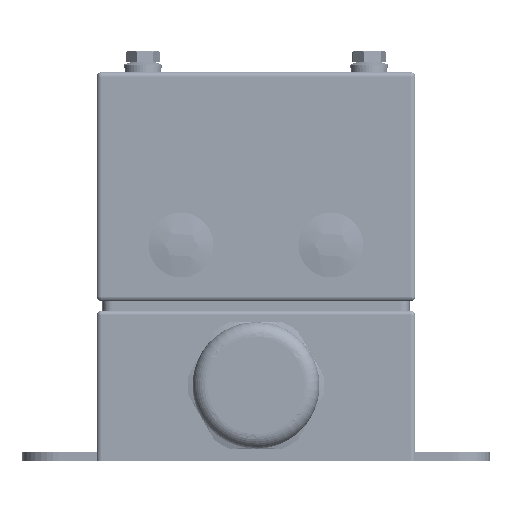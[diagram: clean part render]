
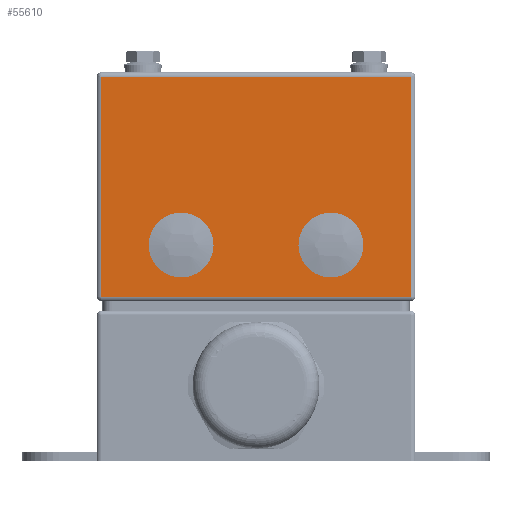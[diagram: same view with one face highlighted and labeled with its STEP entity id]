
A CAD part, front view. The second image highlights one B-rep face of the part: STEP entity #55610.
In plain terms, the highlighted planar face has unit normal (0, -1, 0).
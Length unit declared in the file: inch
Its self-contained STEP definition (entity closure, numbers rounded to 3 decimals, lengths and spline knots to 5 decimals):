
#786 = VECTOR ( 'NONE', #56694, 39.37008 ) ;
#1098 = EDGE_CURVE ( 'NONE', #26829, #47674, #9906, .T. ) ;
#3145 = AXIS2_PLACEMENT_3D ( 'NONE', #39905, #80650, #39479 ) ;
#4721 = ORIENTED_EDGE ( 'NONE', *, *, #1098, .T. ) ;
#4740 = VECTOR ( 'NONE', #40128, 39.37008 ) ;
#5893 = CARTESIAN_POINT ( 'NONE',  ( 2.065, -4.275, 1.53 ) ) ;
#6546 = EDGE_CURVE ( 'NONE', #55925, #56583, #51054, .T. ) ;
#7985 = VECTOR ( 'NONE', #81919, 39.37008 ) ;
#8957 = CIRCLE ( 'NONE', #24145, 0.375 ) ;
#9906 = LINE ( 'NONE', #74977, #7985 ) ;
#9912 = DIRECTION ( 'NONE',  ( 0., 1., 0. ) ) ;
#12426 = LINE ( 'NONE', #63622, #14462 ) ;
#12628 = DIRECTION ( 'NONE',  ( 0., 0., -1. ) ) ;
#13274 = CARTESIAN_POINT ( 'NONE',  ( -1., -4.275, -1.155 ) ) ;
#13534 = ORIENTED_EDGE ( 'NONE', *, *, #60490, .T. ) ;
#14462 = VECTOR ( 'NONE', #83577, 39.37008 ) ;
#18305 = ORIENTED_EDGE ( 'NONE', *, *, #74856, .T. ) ;
#18450 = EDGE_CURVE ( 'NONE', #47674, #21364, #12426, .T. ) ;
#18995 = ORIENTED_EDGE ( 'NONE', *, *, #68162, .F. ) ;
#20796 = EDGE_CURVE ( 'NONE', #56583, #55925, #21542, .T. ) ;
#21364 = VERTEX_POINT ( 'NONE', #84769 ) ;
#21542 = CIRCLE ( 'NONE', #70021, 0.375 ) ;
#21782 = DIRECTION ( 'NONE',  ( 0., 0., -1. ) ) ;
#22617 = DIRECTION ( 'NONE',  ( 0., -1., 0. ) ) ;
#24145 = AXIS2_PLACEMENT_3D ( 'NONE', #65531, #25177, #12628 ) ;
#25177 = DIRECTION ( 'NONE',  ( 0., -1., 0. ) ) ;
#26829 = VERTEX_POINT ( 'NONE', #58717 ) ;
#28365 = ORIENTED_EDGE ( 'NONE', *, *, #20796, .F. ) ;
#28740 = VERTEX_POINT ( 'NONE', #40065 ) ;
#29989 = VERTEX_POINT ( 'NONE', #60461 ) ;
#30010 = ORIENTED_EDGE ( 'NONE', *, *, #18450, .T. ) ;
#35931 = FACE_BOUND ( 'NONE', #51977, .T. ) ;
#39479 = DIRECTION ( 'NONE',  ( 0., 0., -1. ) ) ;
#39905 = CARTESIAN_POINT ( 'NONE',  ( -1., -4.275, -0.78 ) ) ;
#40065 = CARTESIAN_POINT ( 'NONE',  ( 2.065, -4.275, -1.47 ) ) ;
#40128 = DIRECTION ( 'NONE',  ( 0., 0., 1. ) ) ;
#41176 = FACE_OUTER_BOUND ( 'NONE', #78242, .T. ) ;
#42156 = CARTESIAN_POINT ( 'NONE',  ( 1., -4.275, -0.78 ) ) ;
#42704 = ORIENTED_EDGE ( 'NONE', *, *, #73449, .F. ) ;
#43154 = CARTESIAN_POINT ( 'NONE',  ( 1., -4.275, -1.155 ) ) ;
#47674 = VERTEX_POINT ( 'NONE', #50655 ) ;
#48120 = VERTEX_POINT ( 'NONE', #43154 ) ;
#50655 = CARTESIAN_POINT ( 'NONE',  ( -2.065, -4.275, 1.47 ) ) ;
#51054 = CIRCLE ( 'NONE', #3145, 0.375 ) ;
#51977 = EDGE_LOOP ( 'NONE', ( #28365, #60705 ) ) ;
#53093 = AXIS2_PLACEMENT_3D ( 'NONE', #69320, #9912, #54190 ) ;
#53988 = LINE ( 'NONE', #5893, #4740 ) ;
#54190 = DIRECTION ( 'NONE',  ( 0., 0., 1. ) ) ;
#55610 = ADVANCED_FACE ( 'NONE', ( #35931, #74570, #41176 ), #62392, .F. ) ;
#55925 = VERTEX_POINT ( 'NONE', #63682 ) ;
#56583 = VERTEX_POINT ( 'NONE', #13274 ) ;
#56694 = DIRECTION ( 'NONE',  ( 1., 0., 0. ) ) ;
#58717 = CARTESIAN_POINT ( 'NONE',  ( 2.065, -4.275, 1.47 ) ) ;
#60332 = CIRCLE ( 'NONE', #79723, 0.375 ) ;
#60461 = CARTESIAN_POINT ( 'NONE',  ( 1., -4.275, -0.405 ) ) ;
#60490 = EDGE_CURVE ( 'NONE', #21364, #28740, #75359, .T. ) ;
#60705 = ORIENTED_EDGE ( 'NONE', *, *, #6546, .F. ) ;
#62392 = PLANE ( 'NONE',  #53093 ) ;
#63622 = CARTESIAN_POINT ( 'NONE',  ( -2.065, -4.275, 1.53 ) ) ;
#63682 = CARTESIAN_POINT ( 'NONE',  ( -1., -4.275, -0.405 ) ) ;
#65531 = CARTESIAN_POINT ( 'NONE',  ( 1., -4.275, -0.78 ) ) ;
#68162 = EDGE_CURVE ( 'NONE', #29989, #48120, #8957, .T. ) ;
#68217 = CARTESIAN_POINT ( 'NONE',  ( -1., -4.275, -0.78 ) ) ;
#68803 = EDGE_LOOP ( 'NONE', ( #42704, #18995 ) ) ;
#69320 = CARTESIAN_POINT ( 'NONE',  ( 2.125, -4.275, 1.53 ) ) ;
#70021 = AXIS2_PLACEMENT_3D ( 'NONE', #68217, #74299, #80806 ) ;
#73449 = EDGE_CURVE ( 'NONE', #48120, #29989, #60332, .T. ) ;
#74299 = DIRECTION ( 'NONE',  ( 0., -1., 0. ) ) ;
#74570 = FACE_BOUND ( 'NONE', #68803, .T. ) ;
#74856 = EDGE_CURVE ( 'NONE', #28740, #26829, #53988, .T. ) ;
#74977 = CARTESIAN_POINT ( 'NONE',  ( -2.125, -4.275, 1.47 ) ) ;
#75359 = LINE ( 'NONE', #77070, #786 ) ;
#77070 = CARTESIAN_POINT ( 'NONE',  ( 2.125, -4.275, -1.47 ) ) ;
#78242 = EDGE_LOOP ( 'NONE', ( #13534, #18305, #4721, #30010 ) ) ;
#79723 = AXIS2_PLACEMENT_3D ( 'NONE', #42156, #22617, #21782 ) ;
#80650 = DIRECTION ( 'NONE',  ( 0., -1., 0. ) ) ;
#80806 = DIRECTION ( 'NONE',  ( 0., 0., -1. ) ) ;
#81919 = DIRECTION ( 'NONE',  ( -1., 0., 0. ) ) ;
#83577 = DIRECTION ( 'NONE',  ( 0., 0., -1. ) ) ;
#84769 = CARTESIAN_POINT ( 'NONE',  ( -2.065, -4.275, -1.47 ) ) ;
